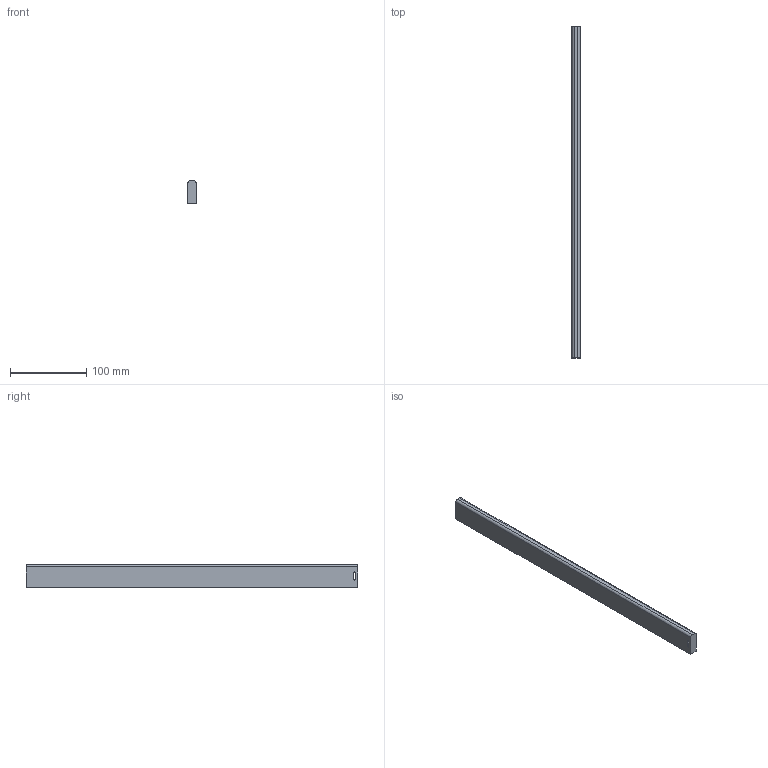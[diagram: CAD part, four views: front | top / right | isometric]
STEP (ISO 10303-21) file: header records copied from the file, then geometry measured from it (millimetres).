
FILE_DESCRIPTION (( 'STEP AP214' ), '1' );
FILE_NAME ('_Seitenreling_S760605500_RL435,5.step', '2010-09-06T14:51:26', ( 'grass' ), ( '' ), 'SwSTEP 2.0', 'SolidWorks 2010', '' );
FILE_SCHEMA (( 'AUTOMOTIVE_DESIGN' ));
Length unit declared in the file: millimetre
Products named in the file (1): _Seitenreling_S760605500_RL435,5
Bounding box: 10.5 x 435.5 x 30 mm (x, y, z)
Volume: 135261.5 mm3; surface area: 34988.4 mm2
Topology: 1 solids, 1 shells, 12 faces, 30 edges, 20 vertices
Faces by surface type: plane 8, cylinder 4
Entity records: 400 total; most frequent: DIRECTION 64, CARTESIAN_POINT 63, ORIENTED_EDGE 60, EDGE_CURVE 30, VECTOR 22, LINE 22, AXIS2_PLACEMENT_3D 21, VERTEX_POINT 20
